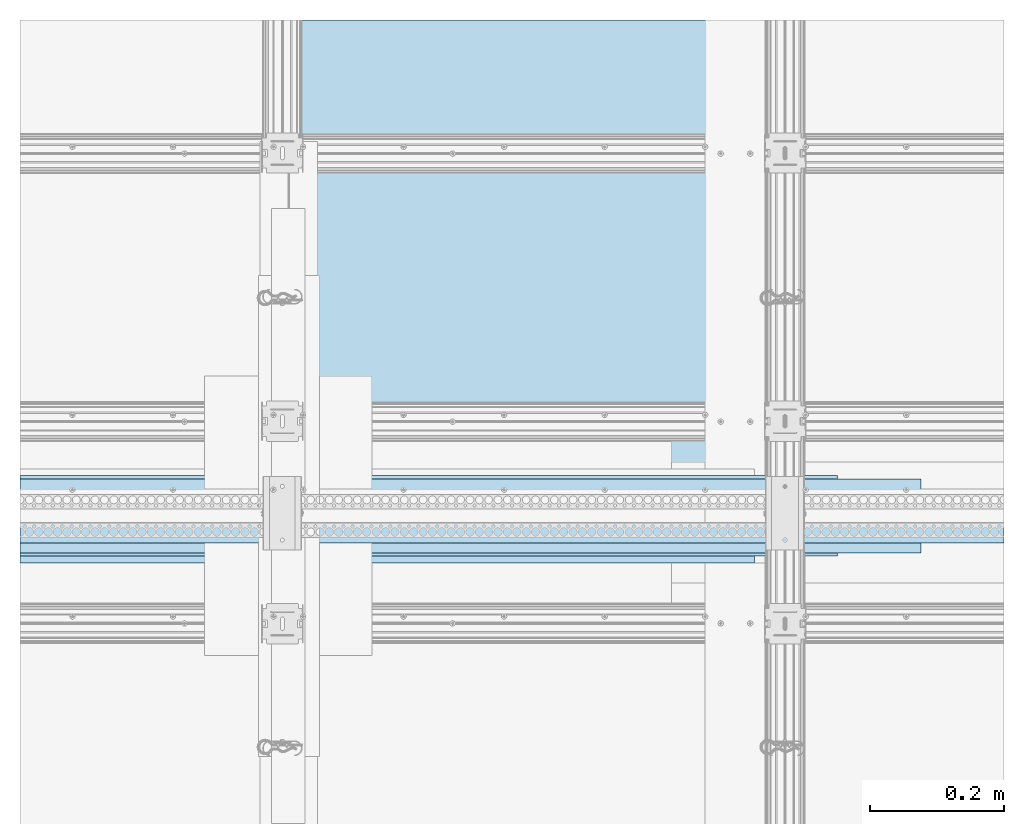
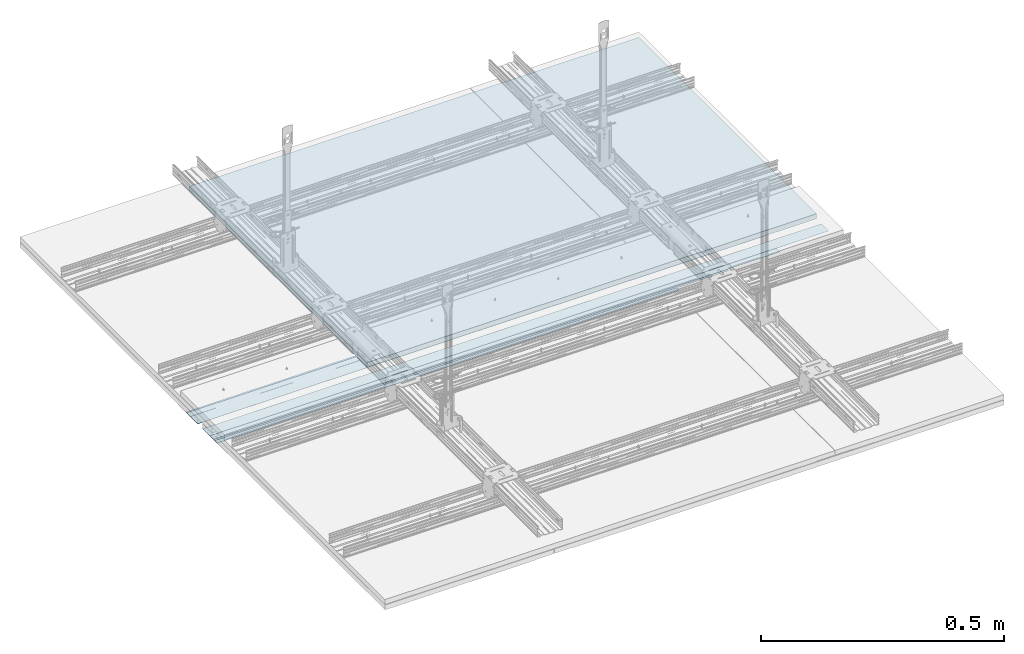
# One storey, part 2 of 73: 7 slabs.
"""IFC2X3 building model written with IfcOpenShell, lengths in millimetres."""

from ifc_helpers import new_model, entity, si_unit, converted_unit, direction, frame, origin, origin_with_axes, place, context, project, spatial, faceted_brep, element, save


model = new_model("IFC2X3")

# Units and contexts
model_context = context("Model", 3, precision=1e-05, world=origin(), true_north=direction((0.0, 1.0, 0.0)))
ifc_project = project(units=[si_unit("LENGTHUNIT", "METRE", prefix="MILLI"), si_unit("AREAUNIT", "SQUARE_METRE"), si_unit("VOLUMEUNIT", "CUBIC_METRE"), converted_unit("PLANEANGLEUNIT", "DEGREE", entity("IfcPlaneAngleMeasure", 0.01745), si_unit("PLANEANGLEUNIT", "RADIAN"), dimensions=[0, 0, 0, 0, 0, 0, 0]), si_unit("SOLIDANGLEUNIT", "STERADIAN"), si_unit("MASSUNIT", "GRAM"), si_unit("TIMEUNIT", "SECOND"), si_unit("THERMODYNAMICTEMPERATUREUNIT", "DEGREE_CELSIUS"), si_unit("LUMINOUSINTENSITYUNIT", "LUMEN")], contexts=[model_context])

# Site, building, storey
site_placement = place(None, origin_with_axes())
site = spatial("IfcSite", under=ifc_project, at=site_placement, Name="Default Site", CompositionType="ELEMENT")
building_placement = place(site_placement, origin_with_axes())
building = spatial("IfcBuilding", under=site, at=building_placement, Name="Default Building", CompositionType="ELEMENT")
storey_placement = place(building_placement, origin_with_axes())
storey = spatial("IfcBuildingStorey", under=building, at=storey_placement, Name="Default Building Storey", CompositionType="ELEMENT", Elevation=0.0)

# Slabs
slab_1_placement = place(storey_placement, frame((2969.960539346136, 2280.730522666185, 4088.053135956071), z_axis=(1.0, 9.963675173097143e-14, -2.65740110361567e-12), x_axis=(-1.533495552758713e-13, 1.0, 2.78446504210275e-12)))
element("IfcSlab", 1, at=slab_1_placement, inside=storey, Name="Taśma spoinowa RIGIPS", context=model_context, shape_type="Brep", body=[
    faceted_brep([(-712.4592163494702, -3120.63617230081, 374.8940238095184), (-712.4592163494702, -3120.820299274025, 374.8940238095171), (-762.45921634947, -3120.820299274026, 374.8940238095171), (-762.45921634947, -3120.636172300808, 374.8940238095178), (-712.4592163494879, -3120.820299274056, -844.9354058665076), (-712.4592163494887, -3120.636172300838, -844.9354058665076), (-762.4592163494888, -3120.636172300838, -844.9354058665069), (-762.4592163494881, -3120.820299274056, -844.9354058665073)], [[[0, 1, 2, 3]], [[4, 5, 6, 7]], [[5, 0, 3, 6]], [[6, 3, 2, 7]], [[7, 2, 1, 4]], [[4, 1, 0, 5]]]),
])
slab_2_placement = place(storey_placement, frame((2906.719840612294, 2280.73052266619, 4087.869008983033), z_axis=(1.0, 9.982569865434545e-14, -2.658095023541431e-12), x_axis=(-1.533495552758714e-13, 1.0, 2.784465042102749e-12)))
element("IfcSlab", 2, at=slab_2_placement, inside=storey, Name="Dedykowana masa szpachlowa Rigips - konstrukcyjna", context=model_context, shape_type="Brep", body=[
    faceted_brep([(-762.4592163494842, -3120.636172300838, -781.6947071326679), (-762.4592163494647, -3120.636172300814, 314.0416950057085), (-762.4592163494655, -3119.991727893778, 314.0416950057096), (-762.4592163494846, -3119.991727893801, -781.6947071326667), (-772.4592163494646, -3119.991727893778, 314.0416950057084), (-772.4592163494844, -3119.991727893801, -781.6947071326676), (-712.4592163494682, -3120.636172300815, 314.0416950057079), (-712.4592163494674, -3120.820299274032, 314.0416950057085), (-772.4592163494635, -3120.820299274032, 314.0416950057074), (-712.4592163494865, -3120.820299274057, -781.6947071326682), (-712.4592163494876, -3120.636172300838, -781.6947071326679), (-772.459216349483, -3120.820299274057, -781.6947071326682)], [[[0, 1, 2, 3]], [[2, 4, 5, 3]], [[6, 7, 8, 4, 2, 1]], [[9, 10, 0, 3, 5, 11]], [[0, 10, 6, 1]], [[4, 8, 11, 5]], [[11, 8, 7, 9]], [[9, 7, 6, 10]]]),
])
slab_3_placement = place(storey_placement, frame((2526.439347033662, 2756.307050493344, 980.2852175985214), z_axis=(-1.121038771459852e-44, 1.0, 3.330669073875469e-16), x_axis=(1.0, 2.128075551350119e-28, -6.389333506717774e-13)))
element("IfcSlab", 3, at=slab_3_placement, inside=storey, Name="Płyta gipsowo-kartonowa RIGIPS PRO (4PRO™)", context=model_context, shape_type="Brep", body=[
    faceted_brep([(1066.601271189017, -7.47539274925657e-10, -438.1320433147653), (1066.601271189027, 12.49999999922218, -438.132043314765), (44.99999999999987, 12.50000000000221, -438.1320433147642), (41.00000000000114, 11.5000000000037, -438.1320433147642), (1.000000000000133, 11.5000000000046, -438.1320433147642), (0.7411809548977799, 11.46592582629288, -438.1320433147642), (0.4999999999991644, 11.36602540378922, -438.1320433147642), (0.2928932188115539, 11.20710678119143, -438.1320433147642), (0.1339745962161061, 11.00000000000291, -438.1320433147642), (0.03407417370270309, 10.75881904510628, -438.1320433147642), (-4.33146851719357e-12, 10.50000000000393, -438.1320433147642), (1.443822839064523e-12, 5.414335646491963e-13, -438.1320433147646), (1066.60127118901, 12.49999999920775, -1167.762426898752), (44.99999999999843, 12.49999999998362, -1167.762426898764), (1066.601271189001, -7.645041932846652e-10, -1167.762426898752), (40.9999999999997, 11.49999999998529, -1167.762426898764), (0.9999999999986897, 11.49999999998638, -1167.762426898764), (0.7411809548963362, 11.46592582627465, -1167.762426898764), (0.4999999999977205, 11.36602540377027, -1167.762426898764), (0.29289321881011, 11.20710678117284, -1167.762426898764), (0.1339745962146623, 10.99999999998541, -1167.762426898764), (0.03407417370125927, 10.75881904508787, -1167.762426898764), (-5.775291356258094e-12, 10.49999999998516, -1167.762426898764), (0.0, -1.822826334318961e-11, -1167.762426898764)], [[[0, 1, 2, 3, 4, 5, 6, 7, 8, 9, 10, 11]], [[1, 12, 13, 2]], [[0, 14, 12, 1]], [[2, 13, 15, 3]], [[3, 15, 16, 4]], [[4, 16, 17, 5]], [[5, 17, 18, 6]], [[6, 18, 19, 7]], [[7, 19, 20, 8]], [[8, 20, 21, 9]], [[9, 21, 22, 10]], [[10, 22, 23, 11]], [[0, 11, 23, 14]], [[13, 12, 14, 23, 22, 21, 20, 19, 18, 17, 16, 15]]]),
])
slab_4_placement = place(storey_placement, frame((2865.999492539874, 875.7854072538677, 4088.237262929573), z_axis=(1.0, -9.987871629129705e-14, -2.657623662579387e-12), x_axis=(-1.533495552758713e-13, -1.0, 2.78446504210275e-12)))
element("IfcSlab", 4, at=slab_4_placement, inside=storey, Name="Dedykowana masa szpachlowa Rigips - konstrukcyjna", context=model_context, shape_type="Brep", body=[
    faceted_brep([(-742.4592163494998, 3120.544108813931, -740.9743590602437), (-742.4592163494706, 3120.544108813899, 602.9480981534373), (-742.4592163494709, 3120.359981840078, 602.9480981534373), (-742.4592163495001, 3120.359981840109, -740.9743590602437), (-757.4592163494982, 3120.359981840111, -740.9743590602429), (-757.4592163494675, 3120.359981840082, 602.9480981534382), (-712.4592163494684, 3120.544108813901, 602.9480981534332), (-712.4592163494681, 3120.820299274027, 602.9480981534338), (-757.4592163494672, 3120.820299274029, 602.9480981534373), (-712.4592163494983, 3120.820299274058, -740.9743590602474), (-712.4592163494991, 3120.54410881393, -740.9743590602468), (-757.4592163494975, 3120.820299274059, -740.9743590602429)], [[[0, 1, 2, 3]], [[4, 3, 2, 5]], [[6, 7, 8, 5, 2, 1]], [[9, 10, 0, 3, 4, 11]], [[6, 1, 0, 10]], [[11, 4, 5, 8]], [[11, 8, 7, 9]], [[9, 7, 6, 10]]]),
])
slab_5_placement = place(storey_placement, frame((2969.960539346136, 875.7854072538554, 4088.053135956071), z_axis=(1.0, -9.963675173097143e-14, -2.65740110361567e-12), x_axis=(-1.533495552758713e-13, -1.0, 2.78446504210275e-12)))
element("IfcSlab", 5, at=slab_5_placement, inside=storey, Name="Taśma spoinowa RIGIPS", context=model_context, shape_type="Brep", body=[
    faceted_brep([(-712.4592163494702, 3120.63617230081, 374.8940238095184), (-712.4592163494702, 3120.820299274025, 374.8940238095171), (-762.45921634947, 3120.820299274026, 374.8940238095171), (-762.45921634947, 3120.636172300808, 374.8940238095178), (-712.4592163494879, 3120.820299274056, -844.9354058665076), (-712.4592163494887, 3120.636172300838, -844.9354058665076), (-762.4592163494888, 3120.636172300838, -844.9354058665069), (-762.4592163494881, 3120.820299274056, -844.9354058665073)], [[[0, 1, 2, 3]], [[4, 5, 6, 7]], [[5, 0, 3, 6]], [[6, 3, 2, 7]], [[7, 2, 1, 4]], [[4, 1, 0, 5]]]),
])
slab_6_placement = place(storey_placement, frame((2865.999492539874, 2280.730522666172, 4088.237262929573), z_axis=(1.0, 9.987871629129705e-14, -2.657623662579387e-12), x_axis=(-1.533495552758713e-13, 1.0, 2.78446504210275e-12)))
element("IfcSlab", 6, at=slab_6_placement, inside=storey, Name="Dedykowana masa szpachlowa Rigips - konstrukcyjna", context=model_context, shape_type="Brep", body=[
    faceted_brep([(-742.4592163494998, -3120.544108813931, -740.9743590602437), (-742.4592163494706, -3120.544108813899, 602.9480981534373), (-742.4592163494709, -3120.359981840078, 602.9480981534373), (-742.4592163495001, -3120.359981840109, -740.9743590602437), (-757.4592163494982, -3120.359981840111, -740.9743590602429), (-757.4592163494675, -3120.359981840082, 602.9480981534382), (-712.4592163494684, -3120.544108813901, 602.9480981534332), (-712.4592163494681, -3120.820299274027, 602.9480981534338), (-757.4592163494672, -3120.820299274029, 602.9480981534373), (-712.4592163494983, -3120.820299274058, -740.9743590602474), (-712.4592163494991, -3120.54410881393, -740.9743590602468), (-757.4592163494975, -3120.820299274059, -740.9743590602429)], [[[0, 1, 2, 3]], [[4, 3, 2, 5]], [[6, 7, 8, 5, 2, 1]], [[9, 10, 0, 3, 4, 11]], [[6, 1, 0, 10]], [[11, 4, 5, 8]], [[11, 8, 7, 9]], [[9, 7, 6, 10]]]),
])
slab_7_placement = place(storey_placement, frame((3468.947590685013, 1517.971306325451, 967.6010906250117), z_axis=(1.935951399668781e-15, 1.0, 2.785103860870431e-12), x_axis=(1.0, -9.394034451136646e-16, -2.737324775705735e-12)))
element("IfcSlab", 7, at=slab_7_placement, inside=storey, Name="Dedykowana masa szpachlowa Rigips - konstrukcyjna", context=model_context, shape_type="Brep", body=[
    faceted_brep([(124.0930275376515, 0.0, 19.99999999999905), (-1343.922457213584, 1.262771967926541e-11, 19.99999999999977), (-1343.922457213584, -0.1841269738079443, 20.00000000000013), (124.093027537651, -0.1841269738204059, 19.99999999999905), (124.0930275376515, 1.661542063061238e-13, 49.99999999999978), (124.093027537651, -0.1841269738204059, 49.99999999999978), (-1343.922457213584, 1.262771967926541e-11, 50.0000000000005), (-1343.922457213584, -0.1841269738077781, 50.00000000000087)], [[[0, 1, 2, 3]], [[4, 0, 3, 5]], [[6, 4, 5, 7]], [[1, 6, 7, 2]], [[2, 7, 5, 3]], [[6, 1, 0, 4]]]),
])

save(model, "model.ifc")
